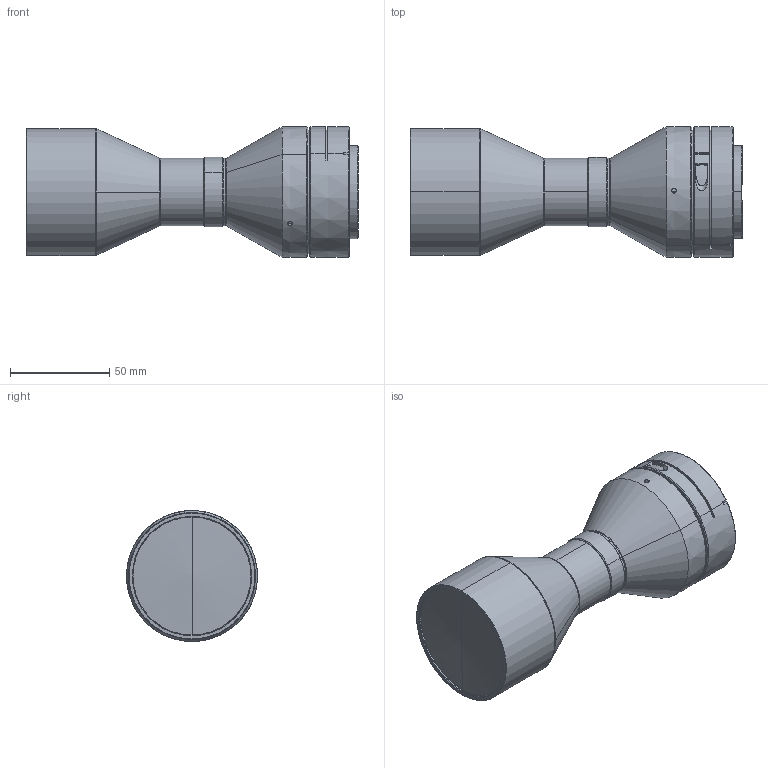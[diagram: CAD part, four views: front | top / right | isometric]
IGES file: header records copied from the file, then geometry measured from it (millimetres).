
Start section: SolidWorks IGES file using analytic representation for surfaces
Global section: file name: D:\----      产品2016.1.20\DTC\DTCM\F+B\－－ AL   可调后截距\48 -C不用可调\DTCM430-48-AL-\3D\DTCM430-48-AL.IGS; native system: SolidWorks 2012; preprocessor: SolidWorks 2012; author: frank; date: 171116.145553; units: millimetre
Bounding box: 167.34 x 65.94 x 65.97 mm (x, y, z)
Surface area: 36920.4 mm2 (no closed solid volume)
Topology: 0 solids, 0 shells, 85 faces, 1693 edges, 1691 vertices
Faces by surface type: revolution 59, bspline 26
